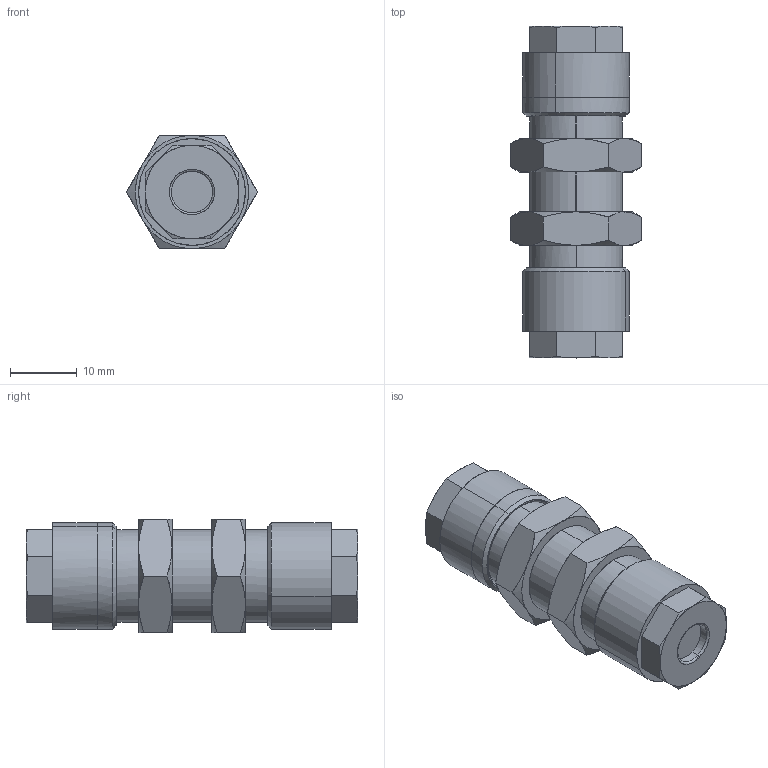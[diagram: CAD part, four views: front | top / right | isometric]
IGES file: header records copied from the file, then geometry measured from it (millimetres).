
Start section: SolidWorks IGES file using analytic representation for surfaces
Global section: file name: K:\Disegni Esecutivi\Serie 1000\Complessivi Serie 1000\1050\1050_iges\0105000007A.IGS; native system: SolidWorks 2008; preprocessor: SolidWorks 2008; author: cad05; date: 090123.172314; units: millimetre
Bounding box: 19.63 x 49.8 x 17 mm (x, y, z)
Surface area: 3375 mm2 (no closed solid volume)
Topology: 0 solids, 0 shells, 123 faces, 1540 edges, 1540 vertices
Faces by surface type: revolution 79, bspline 44
